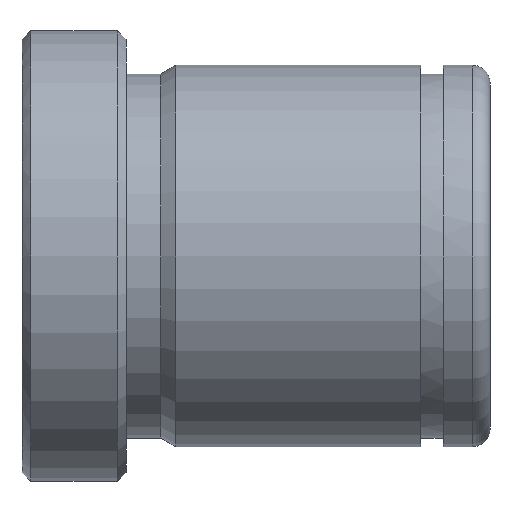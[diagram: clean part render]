
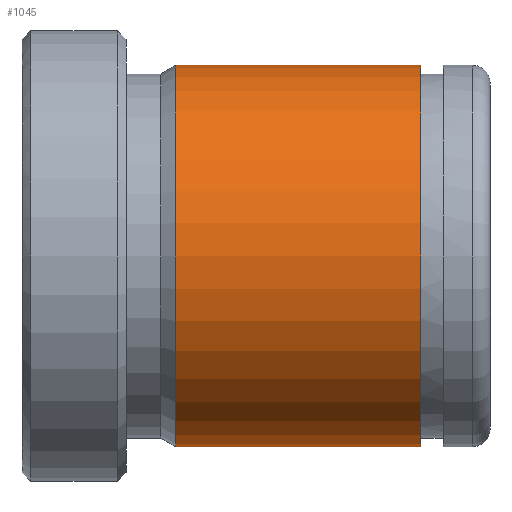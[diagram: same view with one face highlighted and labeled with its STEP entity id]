
A CAD part, front view. The second image highlights one B-rep face of the part: STEP entity #1045.
In plain terms, the highlighted cylindrical face has radius 11 mm (diameter 22 mm), a partial arc.
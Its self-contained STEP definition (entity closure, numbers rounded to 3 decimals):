
#851=CARTESIAN_POINT('Vertex',(8.866,0.,-11.)) ;
#858=CARTESIAN_POINT('Vertex',(8.866,0.,11.)) ;
#887=CARTESIAN_POINT('Axis2P3D Location',(8.866,0.,0.)) ;
#891=CARTESIAN_POINT('Vertex',(8.866,-11.,0.)) ;
#894=CARTESIAN_POINT('Axis2P3D Location',(8.866,0.,0.)) ;
#985=CARTESIAN_POINT('Line Origine',(54.,0.,11.)) ;
#989=CARTESIAN_POINT('Vertex',(23.,0.,11.)) ;
#1003=CARTESIAN_POINT('Vertex',(23.,0.,-11.)) ;
#1006=CARTESIAN_POINT('Line Origine',(54.,0.,-11.)) ;
#1020=CARTESIAN_POINT('Axis2P3D Location',(54.,0.,0.)) ;
#1025=CARTESIAN_POINT('Axis2P3D Location',(23.,0.,0.)) ;
#1029=CARTESIAN_POINT('Vertex',(23.,-11.,0.)) ;
#1032=CARTESIAN_POINT('Axis2P3D Location',(23.,0.,0.)) ;
#888=DIRECTION('Axis2P3D Direction',(1.,0.,-0.)) ;
#895=DIRECTION('Axis2P3D Direction',(1.,0.,-0.)) ;
#986=DIRECTION('Vector Direction',(-1.,0.,0.)) ;
#1007=DIRECTION('Vector Direction',(-1.,0.,0.)) ;
#1021=DIRECTION('Axis2P3D Direction',(-1.,-0.,-0.)) ;
#1022=DIRECTION('Axis2P3D XDirection',(0.,0.,-1.)) ;
#1026=DIRECTION('Axis2P3D Direction',(-1.,-0.,-0.)) ;
#1033=DIRECTION('Axis2P3D Direction',(-1.,-0.,-0.)) ;
#889=AXIS2_PLACEMENT_3D('Circle Axis2P3D',#887,#888,$) ;
#896=AXIS2_PLACEMENT_3D('Circle Axis2P3D',#894,#895,$) ;
#1023=AXIS2_PLACEMENT_3D('Cylinder Axis2P3D',#1020,#1021,#1022) ;
#1027=AXIS2_PLACEMENT_3D('Circle Axis2P3D',#1025,#1026,$) ;
#1034=AXIS2_PLACEMENT_3D('Circle Axis2P3D',#1032,#1033,$) ;
#1038=ORIENTED_EDGE('',*,*,#1010,.T.) ;
#1039=ORIENTED_EDGE('',*,*,#1031,.F.) ;
#1040=ORIENTED_EDGE('',*,*,#1036,.F.) ;
#1041=ORIENTED_EDGE('',*,*,#991,.T.) ;
#1042=ORIENTED_EDGE('',*,*,#898,.T.) ;
#1043=ORIENTED_EDGE('',*,*,#893,.T.) ;
#987=VECTOR('Line Direction',#986,1.) ;
#1008=VECTOR('Line Direction',#1007,1.) ;
#1045=ADVANCED_FACE('553-16X27',(#1044),#1024,.T.) ;
#890=CIRCLE('generated circle',#889,11.) ;
#897=CIRCLE('generated circle',#896,11.) ;
#1028=CIRCLE('generated circle',#1027,11.) ;
#1035=CIRCLE('generated circle',#1034,11.) ;
#1024=CYLINDRICAL_SURFACE('generated cylinder',#1023,11.) ;
#893=EDGE_CURVE('',#892,#852,#890,.T.) ;
#898=EDGE_CURVE('',#859,#892,#897,.T.) ;
#991=EDGE_CURVE('',#990,#859,#988,.T.) ;
#1010=EDGE_CURVE('',#852,#1004,#1009,.F.) ;
#1031=EDGE_CURVE('',#1030,#1004,#1028,.F.) ;
#1036=EDGE_CURVE('',#990,#1030,#1035,.F.) ;
#1037=EDGE_LOOP('',(#1038,#1039,#1040,#1041,#1042,#1043)) ;
#1044=FACE_OUTER_BOUND('',#1037,.T.) ;
#988=LINE('Line',#985,#987) ;
#1009=LINE('Line',#1006,#1008) ;
#852=VERTEX_POINT('',#851) ;
#859=VERTEX_POINT('',#858) ;
#892=VERTEX_POINT('',#891) ;
#990=VERTEX_POINT('',#989) ;
#1004=VERTEX_POINT('',#1003) ;
#1030=VERTEX_POINT('',#1029) ;
